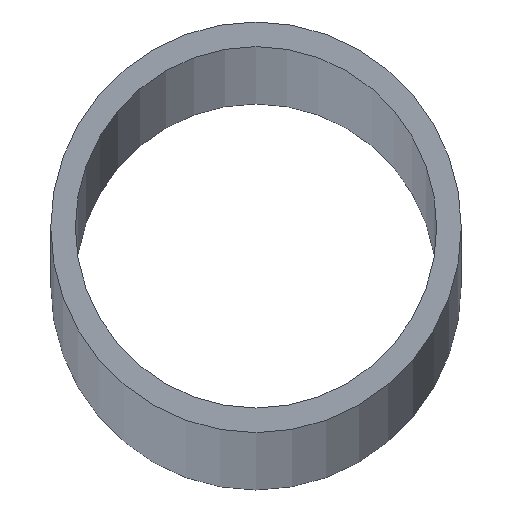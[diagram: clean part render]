
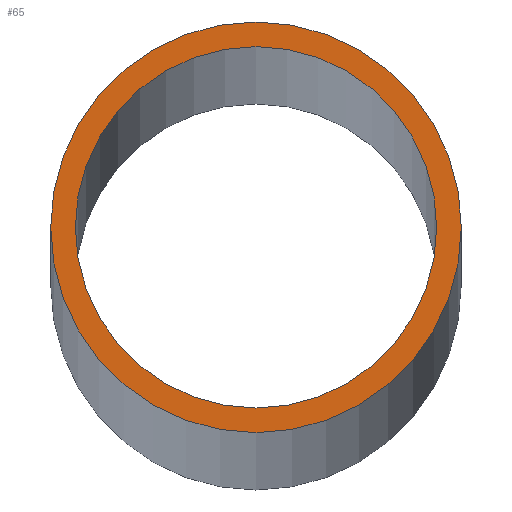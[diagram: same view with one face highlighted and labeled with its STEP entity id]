
A CAD part, top view. The second image highlights one B-rep face of the part: STEP entity #65.
In plain terms, the highlighted planar face has unit normal (0, 0, 1).
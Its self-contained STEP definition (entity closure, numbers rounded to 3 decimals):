
#2 = ORIENTED_EDGE ( 'NONE', *, *, #137, .T. ) ;
#7 = ORIENTED_EDGE ( 'NONE', *, *, #75, .F. ) ;
#17 = ORIENTED_EDGE ( 'NONE', *, *, #167, .T. ) ;
#18 = CIRCLE ( 'NONE', #185, 12.5 ) ;
#20 = CARTESIAN_POINT ( 'NONE',  ( 12.5, 0., 2000. ) ) ;
#23 = CARTESIAN_POINT ( 'NONE',  ( 0., 0., 2000. ) ) ;
#27 = EDGE_CURVE ( 'NONE', #64, #138, #136, .T. ) ;
#32 = AXIS2_PLACEMENT_3D ( 'NONE', #71, #38, #158 ) ;
#38 = DIRECTION ( 'NONE',  ( 0., 0., 1. ) ) ;
#41 = VERTEX_POINT ( 'NONE', #20 ) ;
#55 = CARTESIAN_POINT ( 'NONE',  ( 0., 0., 2000. ) ) ;
#64 = VERTEX_POINT ( 'NONE', #164 ) ;
#65 = ADVANCED_FACE ( 'NONE', ( #134, #105 ), #181, .T. ) ;
#71 = CARTESIAN_POINT ( 'NONE',  ( 0., 0., 2000. ) ) ;
#73 = DIRECTION ( 'NONE',  ( 0., 0., 1. ) ) ;
#75 = EDGE_CURVE ( 'NONE', #138, #64, #123, .T. ) ;
#78 = DIRECTION ( 'NONE',  ( 1., 0., 0. ) ) ;
#91 = EDGE_LOOP ( 'NONE', ( #178, #7 ) ) ;
#94 = CIRCLE ( 'NONE', #211, 12.5 ) ;
#105 = FACE_BOUND ( 'NONE', #91, .T. ) ;
#107 = DIRECTION ( 'NONE',  ( 1., 0., 0. ) ) ;
#108 = DIRECTION ( 'NONE',  ( 1., 0., 0. ) ) ;
#109 = VERTEX_POINT ( 'NONE', #174 ) ;
#113 = DIRECTION ( 'NONE',  ( 0., 0., 1. ) ) ;
#123 = CIRCLE ( 'NONE', #32, 11. ) ;
#129 = DIRECTION ( 'NONE',  ( 0., 0., 1. ) ) ;
#134 = FACE_OUTER_BOUND ( 'NONE', #152, .T. ) ;
#136 = CIRCLE ( 'NONE', #139, 11. ) ;
#137 = EDGE_CURVE ( 'NONE', #109, #41, #18, .T. ) ;
#138 = VERTEX_POINT ( 'NONE', #143 ) ;
#139 = AXIS2_PLACEMENT_3D ( 'NONE', #23, #129, #107 ) ;
#141 = DIRECTION ( 'NONE',  ( 0., 0., 1. ) ) ;
#143 = CARTESIAN_POINT ( 'NONE',  ( 11., 0., 2000. ) ) ;
#152 = EDGE_LOOP ( 'NONE', ( #2, #17 ) ) ;
#158 = DIRECTION ( 'NONE',  ( 1., 0., 0. ) ) ;
#164 = CARTESIAN_POINT ( 'NONE',  ( -11., 0., 2000. ) ) ;
#167 = EDGE_CURVE ( 'NONE', #41, #109, #94, .T. ) ;
#174 = CARTESIAN_POINT ( 'NONE',  ( -12.5, 0., 2000. ) ) ;
#177 = CARTESIAN_POINT ( 'NONE',  ( 0., 0., 2000. ) ) ;
#178 = ORIENTED_EDGE ( 'NONE', *, *, #27, .F. ) ;
#181 = PLANE ( 'NONE',  #199 ) ;
#185 = AXIS2_PLACEMENT_3D ( 'NONE', #55, #73, #108 ) ;
#193 = DIRECTION ( 'NONE',  ( 1., 0., 0. ) ) ;
#199 = AXIS2_PLACEMENT_3D ( 'NONE', #177, #141, #193 ) ;
#209 = CARTESIAN_POINT ( 'NONE',  ( 0., 0., 2000. ) ) ;
#211 = AXIS2_PLACEMENT_3D ( 'NONE', #209, #113, #78 ) ;
